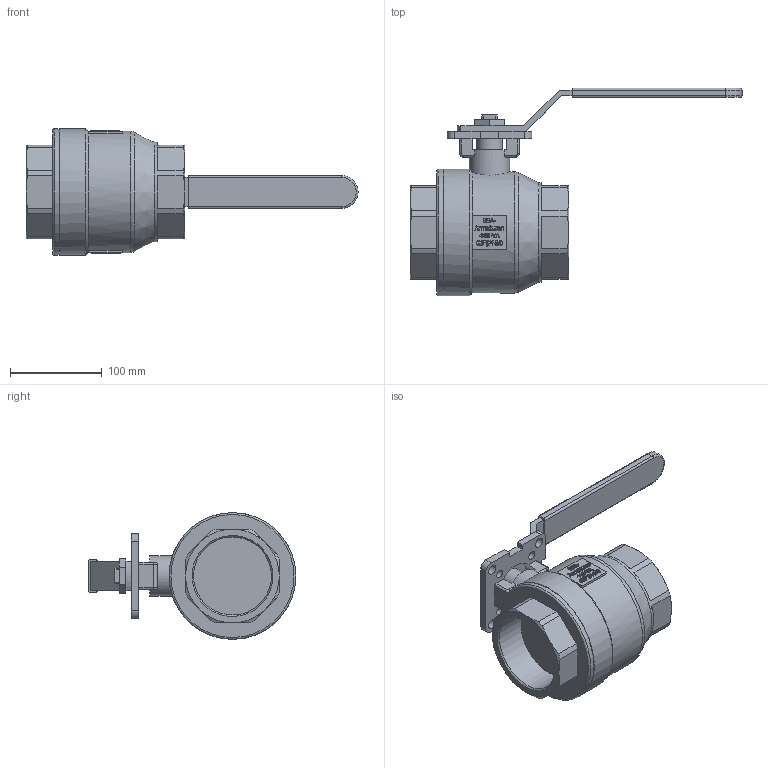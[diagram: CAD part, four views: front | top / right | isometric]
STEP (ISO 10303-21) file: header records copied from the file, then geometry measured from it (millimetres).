
FILE_DESCRIPTION((''),'2;1');
FILE_NAME('K:\Inventor\1 Artikel\11) Muffen-Kugelhähne\11a) manuell\Econosto\440-VA, 7752ISO\440-VA, G3\440-VA, G3, 3D\440-VA, G3, PN50, HH, 3D.stp','2019-10-24T14:44:38',('claudia'),(''),'Autodesk Inventor 2013','Autodesk Inventor 2013','');
FILE_SCHEMA(('AUTOMOTIVE_DESIGN { 1 0 10303 214 1 1 1 1 }'));
Length unit declared in the file: millimetre
Products named in the file (1): Bauteil12
Bounding box: 361.5 x 226.1 x 138 mm (x, y, z)
Volume: 1857734 mm3; surface area: 162373 mm2
Topology: 1 solids, 1 shells, 1235 faces, 3344 edges, 2211 vertices
Faces by surface type: plane 715, bspline 444, cylinder 49, cone 22, torus 5
Full cylindrical faces by diameter (mm): 9 x4, 11 x4, 28 x1, 44 x1, 48 x1, 84.926 x2, 108 x1, 132 x1, 138 x2
Entity records: 42299 total; most frequent: CARTESIAN_POINT 14234, ORIENTED_EDGE 6630, DIRECTION 4131, EDGE_CURVE 3315, VECTOR 2239, LINE 2239, VERTEX_POINT 2206, EDGE_LOOP 1383
